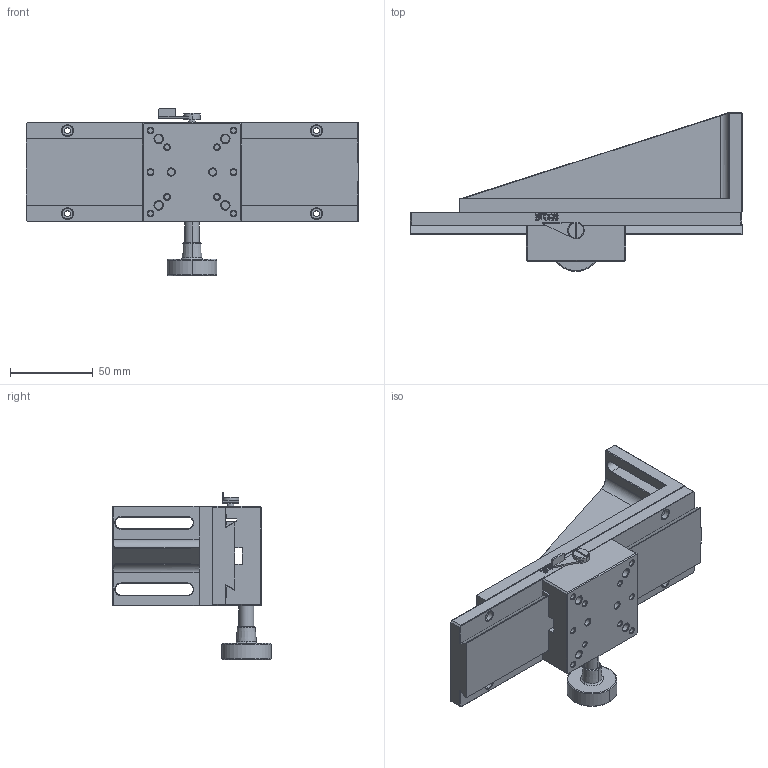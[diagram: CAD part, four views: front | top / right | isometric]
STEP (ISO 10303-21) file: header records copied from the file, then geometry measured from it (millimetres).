
FILE_DESCRIPTION (( 'STEP AP214' ), '1' );
FILE_NAME ('PT-DZ60-200.STEP', '2022-09-17T03:21:14', ( '' ), ( '' ), 'SwSTEP 2.0', 'SolidWorks 2017', '' );
FILE_SCHEMA (( 'AUTOMOTIVE_DESIGN' ));
Length unit declared in the file: millimetre
Products named in the file (4): LWX60-L200; PT-DZ60-200; MANIFOLD_SOLID_BREP_HT; 60-200
Assembly tree (3 placements, depth 2):
  PT-DZ60-200
    LWX60-L200
    MANIFOLD_SOLID_BREP_HT
    60-200
Bounding box: 200 x 95.5 x 101 mm (x, y, z)
Volume: 345237.4 mm3; surface area: 93384.9 mm2
Topology: 3 solids, 7 shells, 796 faces, 2014 edges, 1289 vertices
Faces by surface type: plane 380, bspline 156, cone 133, cylinder 127
Entity records: 30456 total; most frequent: CARTESIAN_POINT 11869, ORIENTED_EDGE 4016, DIRECTION 3374, EDGE_CURVE 2008, VERTEX_POINT 1289, VECTOR 1262, LINE 1262, AXIS2_PLACEMENT_3D 1056
